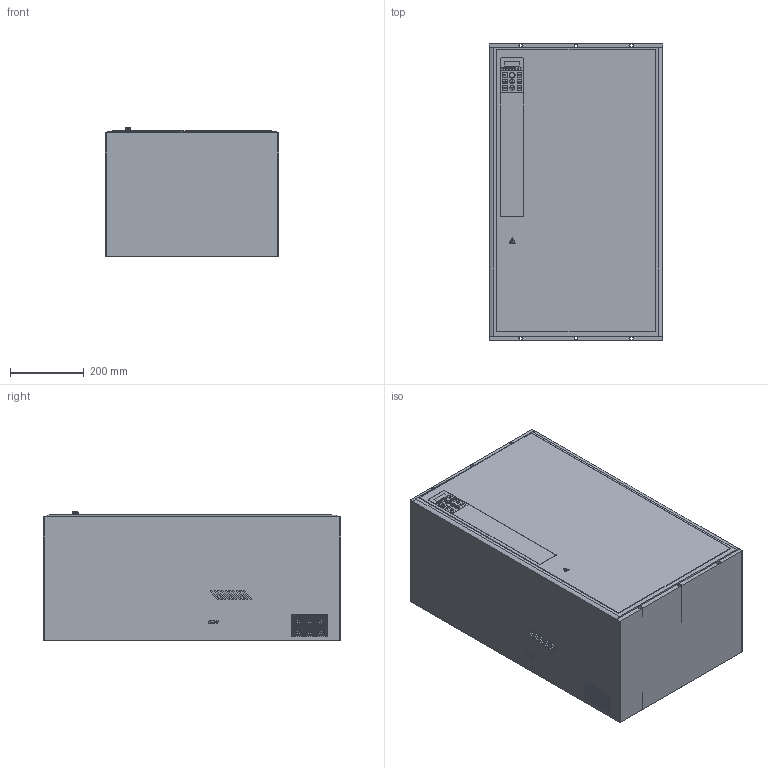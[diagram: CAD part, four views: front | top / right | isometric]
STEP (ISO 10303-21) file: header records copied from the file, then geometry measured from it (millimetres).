
FILE_DESCRIPTION(/* description */ (''),/* implementation_level */ '2;1');
FILE_NAME(/* name */ 'D:\2 ДОГОВОР ЧИНТ\Выслать\CHINT 10.03.2019\NVF2G\NVF2G-110 TS4(132 PS4) NVF2G-132 TS4(160 PS4).stp',/* time_stamp */ '2019-03-11T18:59:17+03:00',/* author */ ('RSagdiev'),/* organization */ (''),/* preprocessor_version */ 'ST-DEVELOPER v16.5',/* originating_system */ 'Autodesk Inventor 2017',/* authorisation */ '');
FILE_SCHEMA (('AUTOMOTIVE_DESIGN { 1 0 10303 214 3 1 1 }'));
Length unit declared in the file: millimetre
Products named in the file (1): NVF2G-110 TS4(132 PS4) NVF2G-132 TS4(160 PS4)
Bounding box: 470.1 x 807 x 352 mm (x, y, z)
Volume: 129546757.7 mm3; surface area: 3153891.1 mm2
Topology: 15 solids, 15 shells, 1641 faces, 3849 edges, 2566 vertices
Faces by surface type: plane 1040, cylinder 318, bspline 193, cone 90
Full cylindrical faces by diameter (mm): 2 x7, 4 x240, 10 x6, 13 x3
Entity records: 47265 total; most frequent: CARTESIAN_POINT 11339, ORIENTED_EDGE 7186, DIRECTION 6741, EDGE_CURVE 3593, VERTEX_POINT 2566, AXIS2_PLACEMENT_3D 2265, EDGE_LOOP 2237, LINE 2211
